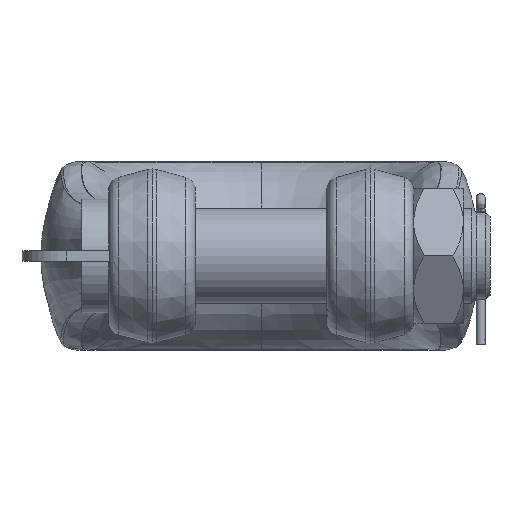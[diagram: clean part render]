
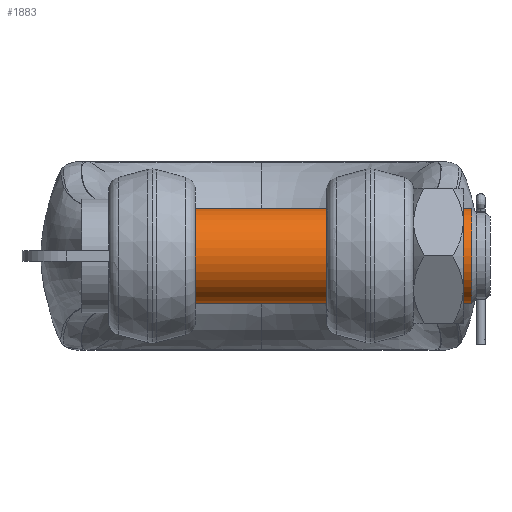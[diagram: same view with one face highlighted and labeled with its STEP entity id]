
A CAD part, front view. The second image highlights one B-rep face of the part: STEP entity #1883.
In plain terms, the highlighted cylindrical face has radius 67 mm (diameter 134 mm), a partial arc.
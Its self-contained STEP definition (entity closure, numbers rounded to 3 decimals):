
#1883=ADVANCED_FACE('',(#3775),#3776,.T.);
#3775=FACE_OUTER_BOUND('',#74842,.T.);
#3776=CYLINDRICAL_SURFACE('',#74843,67.0);
#74842=EDGE_LOOP('',(#79726,#79727,#79728,#79729));
#74843=AXIS2_PLACEMENT_3D('',#79730,#79731,#79732);
#79726=ORIENTED_EDGE('',*,*,#81951,.T.);
#79727=ORIENTED_EDGE('',*,*,#81962,.T.);
#79728=ORIENTED_EDGE('',*,*,#81953,.T.);
#79729=ORIENTED_EDGE('',*,*,#81959,.T.);
#79730=CARTESIAN_POINT('',(-214.5,0.0,0.0));
#79731=DIRECTION('',(-1.0,0.0,0.0));
#79732=DIRECTION('',(0.0,0.0,-1.0));
#81951=EDGE_CURVE('',#85129,#85125,#85130,.T.);
#81953=EDGE_CURVE('',#85123,#85131,#85133,.T.);
#81959=EDGE_CURVE('',#85131,#85129,#85141,.T.);
#81962=EDGE_CURVE('',#85125,#85123,#85144,.T.);
#85123=VERTEX_POINT('',#131039);
#85125=VERTEX_POINT('',#131042);
#85129=VERTEX_POINT('',#131047);
#85130=LINE('',#131048,#131049);
#85131=VERTEX_POINT('',#131050);
#85133=LINE('',#131052,#131053);
#85141=CIRCLE('',#131259,67.0);
#85144=CIRCLE('',#131463,67.0);
#131039=CARTESIAN_POINT('',(296.5,0.,67.0));
#131042=CARTESIAN_POINT('',(296.5,0.,-67.0));
#131047=CARTESIAN_POINT('',(-211.5,0.0,-67.0));
#131048=CARTESIAN_POINT('',(42.5,0.,-67.0));
#131049=VECTOR('',#133374,1.0);
#131050=CARTESIAN_POINT('',(-211.5,0.,67.0));
#131052=CARTESIAN_POINT('',(42.5,0.,67.0));
#131053=VECTOR('',#133378,1.0);
#131259=AXIS2_PLACEMENT_3D('',#133385,#133386,#133387);
#131463=AXIS2_PLACEMENT_3D('',#133388,#133389,#133390);
#133374=DIRECTION('',(1.0,-0.0,-0.0));
#133378=DIRECTION('',(-1.0,0.0,0.0));
#133385=CARTESIAN_POINT('',(-211.5,0.0,0.0));
#133386=DIRECTION('',(1.0,0.0,0.0));
#133387=DIRECTION('',(0.0,0.0,-1.0));
#133388=CARTESIAN_POINT('',(296.5,0.0,0.0));
#133389=DIRECTION('',(-1.0,0.0,0.0));
#133390=DIRECTION('',(0.0,0.0,-1.0));
